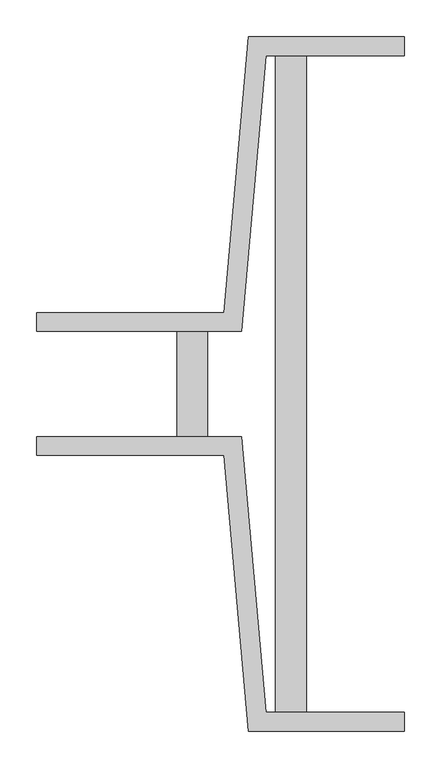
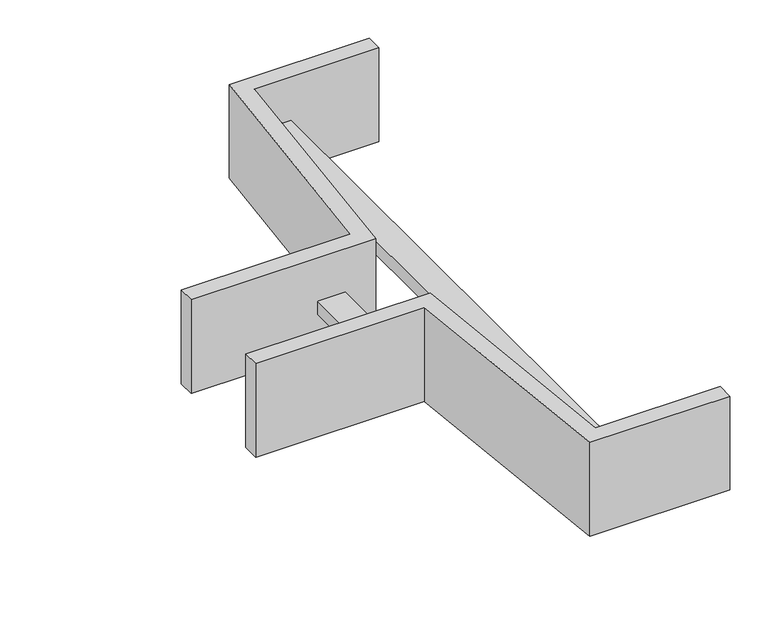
"""IFC4 building model written with IfcOpenShell, lengths in millimetres: cable carrier fitting geometry, Legrand_CableLadder_Swifts_Emerald_Reducer-13 : Straight - Hot Dip Galvanised (after manufacture)."""

from ifc_helpers import new_model, si_unit, frame, origin, place, context, project, spatial, polyline, outline, extrude, source, transform, mapped, element, save


def cable_carrier_fitting_d8a74605(model_context):
    return source(origin(), model_context, "Body", "SweptSolid", [
        extrude(outline(polyline([(-250.0, 71.5), (-250.0, 97.0), (5.1522299, 97.0), (38.3281838, 472.0), (250.0, 472.0), (250.0, 446.5), (61.6718162, 446.5), (28.4958623, 71.5), (-250.0, 71.5)])), frame((0.0, 0.0, -75.0), z_axis=(0.0, 0.0, 1.0), x_axis=(1.0, 0.0, 0.0)), (0.0, 0.0, 1.0), 150.0),
        extrude(outline(polyline([(-250.0, -97.0), (-250.0, -71.5), (28.4958623, -71.5), (61.6718162, -446.5), (250.0, -446.5), (250.0, -472.0), (38.3281838, -472.0), (5.1522299, -97.0), (-250.0, -97.0)])), frame((0.0, 0.0, -75.0), z_axis=(0.0, 0.0, 1.0), x_axis=(1.0, 0.0, 0.0)), (0.0, 0.0, 1.0), 150.0),
        extrude(outline(polyline([(117.0, 446.5), (117.0, -446.5), (75.0, -446.5), (75.0, 446.5), (117.0, 446.5)])), frame((0.0, 0.0, -15.0), z_axis=(0.0, 0.0, 1.0), x_axis=(1.0, 0.0, 0.0)), (0.0, 0.0, 1.0), 21.0),
        extrude(outline(polyline([(-59.3484893, -71.5), (-59.3484893, 71.5), (-17.3484893, 71.5), (-17.3484893, -71.5), (-59.3484893, -71.5)])), frame((0.0, 0.0, -15.0), z_axis=(0.0, 0.0, 1.0), x_axis=(1.0, 0.0, 0.0)), (0.0, 0.0, 1.0), 21.0),
    ])


if __name__ == "__main__":
    model = new_model("IFC4")
    model_context = context("Model", 3, world=origin())
    ifc_project = project(units=[si_unit("LENGTHUNIT", "METRE", prefix="MILLI")], contexts=[model_context])
    site = spatial("IfcSite", under=ifc_project)
    building = spatial("IfcBuilding", under=site)
    placement = place(None, origin())
    cable_carrier_fitting_shape = cable_carrier_fitting_d8a74605(model_context)
    element("IfcCableCarrierFitting", 1, ObjectType="Legrand_CableLadder_Swifts_Emerald_Reducer-13 : Straight - Hot Dip Galvanised (after manufacture)", at=placement, inside=building, context=model_context, shape_type="MappedRepresentation", body=[
        mapped(cable_carrier_fitting_shape, transform((0.0, 0.0, 0.0), x_axis=(1.0, 0.0, 0.0), y_axis=(0.0, 1.0, 0.0), z_axis=(0.0, 0.0, 1.0))),
    ])
    save(model, "model.ifc")
